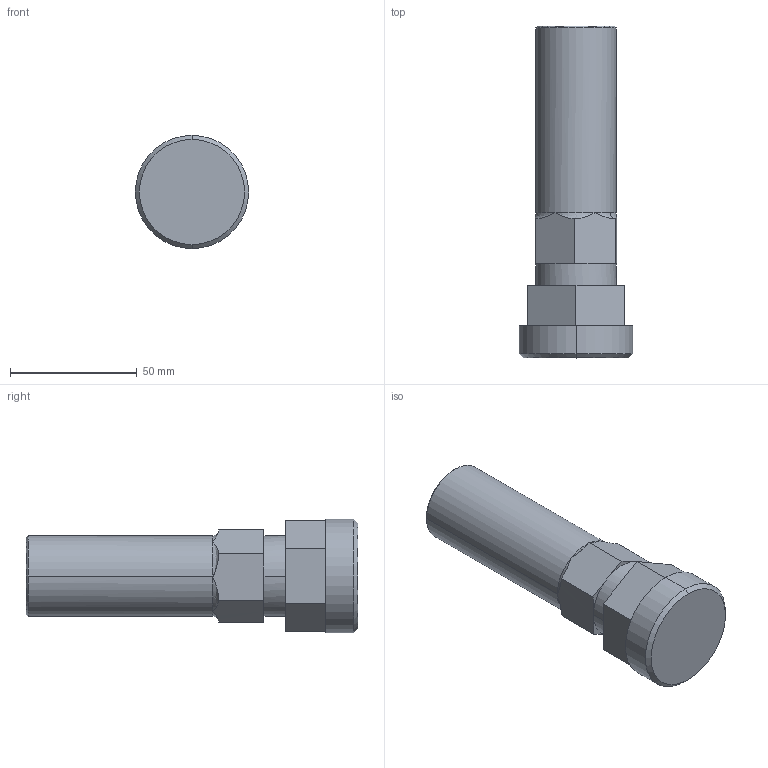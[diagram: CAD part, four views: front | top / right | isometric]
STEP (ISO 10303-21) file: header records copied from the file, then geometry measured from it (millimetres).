
FILE_DESCRIPTION (( 'STEP AP214' ), '1' );
FILE_NAME ('20-tube-out-with-top-mount-adapter.STEP', '2012-11-27T20:54:55', ( '' ), ( '' ), 'SwSTEP 2.0', 'SolidWorks 2012', '' );
FILE_SCHEMA (( 'AUTOMOTIVE_DESIGN' ));
Length unit declared in the file: inch
Products named in the file (1): 20-tube-out-with-top-mount-adapter
Bounding box: 44.7 x 131.09 x 44.7 mm (x, y, z)
Volume: 122361.6 mm3; surface area: 17365.8 mm2
Topology: 1 solids, 1 shells, 45 faces, 107 edges, 66 vertices
Faces by surface type: plane 28, bspline 7, cylinder 6, cone 4
Entity records: 1973 total; most frequent: CARTESIAN_POINT 882, ORIENTED_EDGE 214, DIRECTION 203, EDGE_CURVE 107, AXIS2_PLACEMENT_3D 69, VERTEX_POINT 66, VECTOR 65, LINE 65
